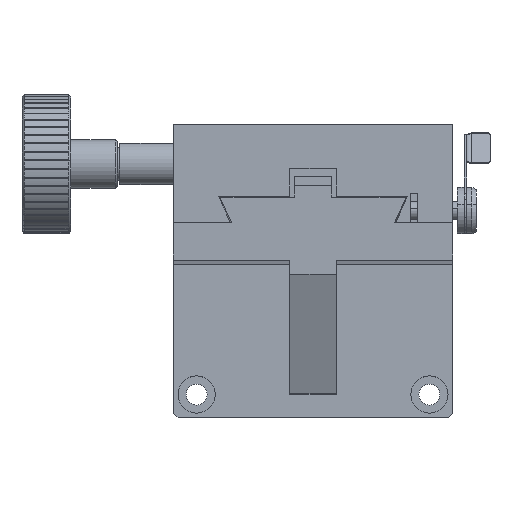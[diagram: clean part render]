
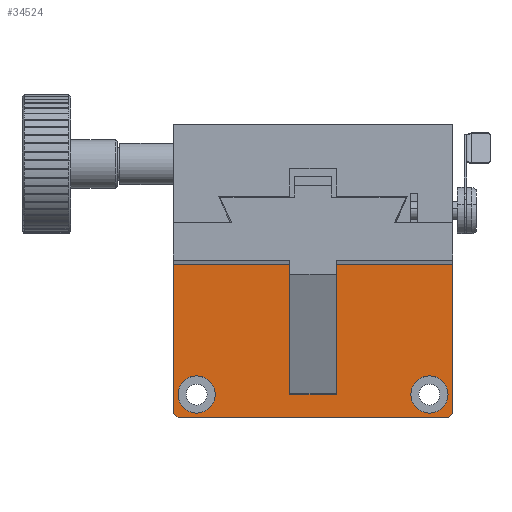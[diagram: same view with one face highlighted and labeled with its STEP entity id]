
A CAD part, top view. The second image highlights one B-rep face of the part: STEP entity #34524.
In plain terms, the highlighted planar face has unit normal (0, 0, 1).
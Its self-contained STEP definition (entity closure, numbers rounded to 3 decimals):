
#58 = VECTOR ( 'NONE', #4758, 1000. ) ;
#392 = CARTESIAN_POINT ( 'NONE',  ( 21., -28., 0. ) ) ;
#506 = DIRECTION ( 'NONE',  ( 0., 0., 1. ) ) ;
#528 = CIRCLE ( 'NONE', #10236, 4. ) ;
#837 = ORIENTED_EDGE ( 'NONE', *, *, #28467, .T. ) ;
#862 = CIRCLE ( 'NONE', #20297, 4. ) ;
#1023 = ORIENTED_EDGE ( 'NONE', *, *, #34290, .T. ) ;
#1090 = CARTESIAN_POINT ( 'NONE',  ( -29., -28., 0. ) ) ;
#1639 = ORIENTED_EDGE ( 'NONE', *, *, #1946, .T. ) ;
#1731 = LINE ( 'NONE', #20712, #58 ) ;
#1849 = LINE ( 'NONE', #4249, #26868 ) ;
#1946 = EDGE_CURVE ( 'NONE', #11115, #17996, #20244, .T. ) ;
#2128 = VECTOR ( 'NONE', #22966, 1000. ) ;
#2556 = LINE ( 'NONE', #25134, #21779 ) ;
#2579 = EDGE_LOOP ( 'NONE', ( #18235, #14479 ) ) ;
#2648 = VERTEX_POINT ( 'NONE', #5251 ) ;
#2653 = ORIENTED_EDGE ( 'NONE', *, *, #10700, .T. ) ;
#3233 = CARTESIAN_POINT ( 'NONE',  ( 29., -28., 0. ) ) ;
#4249 = CARTESIAN_POINT ( 'NONE',  ( -30., -32., 0. ) ) ;
#4635 = DIRECTION ( 'NONE',  ( 0., 1., 0. ) ) ;
#4758 = DIRECTION ( 'NONE',  ( 0.707, 0.707, 0. ) ) ;
#4779 = EDGE_CURVE ( 'NONE', #8568, #20676, #862, .T. ) ;
#4848 = CARTESIAN_POINT ( 'NONE',  ( 25., -28., 0. ) ) ;
#5251 = CARTESIAN_POINT ( 'NONE',  ( -30., -32., 0. ) ) ;
#6310 = DIRECTION ( 'NONE',  ( 0., 0., -1. ) ) ;
#7027 = ORIENTED_EDGE ( 'NONE', *, *, #8184, .T. ) ;
#7050 = DIRECTION ( 'NONE',  ( 0., 0., -1. ) ) ;
#7292 = AXIS2_PLACEMENT_3D ( 'NONE', #4848, #7771, #26494 ) ;
#7771 = DIRECTION ( 'NONE',  ( 0., 0., -1. ) ) ;
#8148 = AXIS2_PLACEMENT_3D ( 'NONE', #32754, #506, #19504 ) ;
#8184 = EDGE_CURVE ( 'NONE', #25402, #15542, #8849, .T. ) ;
#8568 = VERTEX_POINT ( 'NONE', #1090 ) ;
#8673 = CARTESIAN_POINT ( 'NONE',  ( 30., -32., 0. ) ) ;
#8849 = LINE ( 'NONE', #23191, #2128 ) ;
#9775 = DIRECTION ( 'NONE',  ( 0.707, -0.707, 0. ) ) ;
#9804 = DIRECTION ( 'NONE',  ( -1., 0., 0. ) ) ;
#9901 = LINE ( 'NONE', #24553, #11608 ) ;
#10236 = AXIS2_PLACEMENT_3D ( 'NONE', #15081, #33690, #17768 ) ;
#10418 = LINE ( 'NONE', #30810, #16646 ) ;
#10430 = VERTEX_POINT ( 'NONE', #19068 ) ;
#10444 = AXIS2_PLACEMENT_3D ( 'NONE', #11798, #6310, #32584 ) ;
#10700 = EDGE_CURVE ( 'NONE', #23411, #33060, #31910, .T. ) ;
#11115 = VERTEX_POINT ( 'NONE', #392 ) ;
#11317 = VERTEX_POINT ( 'NONE', #27945 ) ;
#11608 = VECTOR ( 'NONE', #21642, 1000. ) ;
#11798 = CARTESIAN_POINT ( 'NONE',  ( 25., -28., 0. ) ) ;
#12277 = EDGE_CURVE ( 'NONE', #12898, #2648, #2556, .T. ) ;
#12557 = DIRECTION ( 'NONE',  ( 1., 0., 0. ) ) ;
#12898 = VERTEX_POINT ( 'NONE', #23440 ) ;
#13168 = VECTOR ( 'NONE', #21501, 1000. ) ;
#13600 = VECTOR ( 'NONE', #9804, 1000. ) ;
#13793 = VERTEX_POINT ( 'NONE', #8673 ) ;
#14000 = EDGE_CURVE ( 'NONE', #10430, #33060, #10418, .T. ) ;
#14479 = ORIENTED_EDGE ( 'NONE', *, *, #4779, .T. ) ;
#15081 = CARTESIAN_POINT ( 'NONE',  ( -25., -28., 0. ) ) ;
#15294 = CARTESIAN_POINT ( 'NONE',  ( -25., -28., 0. ) ) ;
#15542 = VERTEX_POINT ( 'NONE', #25837 ) ;
#16124 = CARTESIAN_POINT ( 'NONE',  ( 5., 0., 0. ) ) ;
#16198 = VERTEX_POINT ( 'NONE', #17102 ) ;
#16500 = LINE ( 'NONE', #27057, #13168 ) ;
#16646 = VECTOR ( 'NONE', #4635, 1000. ) ;
#17102 = CARTESIAN_POINT ( 'NONE',  ( -5., -28., 0. ) ) ;
#17768 = DIRECTION ( 'NONE',  ( 1., 0., 0. ) ) ;
#17996 = VERTEX_POINT ( 'NONE', #3233 ) ;
#18235 = ORIENTED_EDGE ( 'NONE', *, *, #29540, .T. ) ;
#19052 = ORIENTED_EDGE ( 'NONE', *, *, #24027, .T. ) ;
#19068 = CARTESIAN_POINT ( 'NONE',  ( 5., -28., 0. ) ) ;
#19294 = ORIENTED_EDGE ( 'NONE', *, *, #30511, .T. ) ;
#19504 = DIRECTION ( 'NONE',  ( 1., 0., 0. ) ) ;
#20137 = CARTESIAN_POINT ( 'NONE',  ( 30., 0., 0. ) ) ;
#20219 = CARTESIAN_POINT ( 'NONE',  ( 0., -28., 0. ) ) ;
#20244 = CIRCLE ( 'NONE', #7292, 4. ) ;
#20260 = CIRCLE ( 'NONE', #10444, 4. ) ;
#20297 = AXIS2_PLACEMENT_3D ( 'NONE', #15294, #7050, #12557 ) ;
#20548 = VECTOR ( 'NONE', #30707, 1000. ) ;
#20676 = VERTEX_POINT ( 'NONE', #29936 ) ;
#20712 = CARTESIAN_POINT ( 'NONE',  ( 29., -33., 0. ) ) ;
#21501 = DIRECTION ( 'NONE',  ( 0., 1., 0. ) ) ;
#21642 = DIRECTION ( 'NONE',  ( -1., 0., 0. ) ) ;
#21779 = VECTOR ( 'NONE', #27659, 1000. ) ;
#21858 = ORIENTED_EDGE ( 'NONE', *, *, #12277, .T. ) ;
#22523 = EDGE_CURVE ( 'NONE', #11317, #12898, #9901, .T. ) ;
#22966 = DIRECTION ( 'NONE',  ( 1., 0., 0. ) ) ;
#23119 = CARTESIAN_POINT ( 'NONE',  ( -30., 0., 0. ) ) ;
#23191 = CARTESIAN_POINT ( 'NONE',  ( 0., -33., 0. ) ) ;
#23315 = EDGE_CURVE ( 'NONE', #16198, #11317, #16500, .T. ) ;
#23411 = VERTEX_POINT ( 'NONE', #24865 ) ;
#23440 = CARTESIAN_POINT ( 'NONE',  ( -30., 0., 0. ) ) ;
#24027 = EDGE_CURVE ( 'NONE', #13793, #23411, #27596, .T. ) ;
#24553 = CARTESIAN_POINT ( 'NONE',  ( 0., 0., 0. ) ) ;
#24839 = ORIENTED_EDGE ( 'NONE', *, *, #23315, .T. ) ;
#24865 = CARTESIAN_POINT ( 'NONE',  ( 30., 0., 0. ) ) ;
#25134 = CARTESIAN_POINT ( 'NONE',  ( -30., 0., 0. ) ) ;
#25214 = FACE_BOUND ( 'NONE', #2579, .T. ) ;
#25402 = VERTEX_POINT ( 'NONE', #34280 ) ;
#25837 = CARTESIAN_POINT ( 'NONE',  ( 29., -33., 0. ) ) ;
#26432 = FACE_OUTER_BOUND ( 'NONE', #27404, .T. ) ;
#26494 = DIRECTION ( 'NONE',  ( 1., 0., 0. ) ) ;
#26868 = VECTOR ( 'NONE', #9775, 1000. ) ;
#27057 = CARTESIAN_POINT ( 'NONE',  ( -5., 0., 0. ) ) ;
#27404 = EDGE_LOOP ( 'NONE', ( #24839, #30347, #21858, #28535, #7027, #19294, #19052, #2653, #32029, #1023 ) ) ;
#27596 = LINE ( 'NONE', #20137, #20548 ) ;
#27659 = DIRECTION ( 'NONE',  ( 0., -1., 0. ) ) ;
#27945 = CARTESIAN_POINT ( 'NONE',  ( -5., 0., 0. ) ) ;
#28467 = EDGE_CURVE ( 'NONE', #17996, #11115, #20260, .T. ) ;
#28535 = ORIENTED_EDGE ( 'NONE', *, *, #29028, .T. ) ;
#28910 = LINE ( 'NONE', #20219, #13600 ) ;
#29028 = EDGE_CURVE ( 'NONE', #2648, #25402, #1849, .T. ) ;
#29540 = EDGE_CURVE ( 'NONE', #20676, #8568, #528, .T. ) ;
#29786 = VECTOR ( 'NONE', #33801, 1000. ) ;
#29936 = CARTESIAN_POINT ( 'NONE',  ( -21., -28., 0. ) ) ;
#29949 = PLANE ( 'NONE',  #8148 ) ;
#30347 = ORIENTED_EDGE ( 'NONE', *, *, #22523, .T. ) ;
#30511 = EDGE_CURVE ( 'NONE', #15542, #13793, #1731, .T. ) ;
#30707 = DIRECTION ( 'NONE',  ( 0., 1., 0. ) ) ;
#30810 = CARTESIAN_POINT ( 'NONE',  ( 5., 0., 0. ) ) ;
#31910 = LINE ( 'NONE', #23119, #29786 ) ;
#32029 = ORIENTED_EDGE ( 'NONE', *, *, #14000, .F. ) ;
#32282 = FACE_BOUND ( 'NONE', #34255, .T. ) ;
#32584 = DIRECTION ( 'NONE',  ( 1., 0., 0. ) ) ;
#32754 = CARTESIAN_POINT ( 'NONE',  ( 0., 0., 0. ) ) ;
#33060 = VERTEX_POINT ( 'NONE', #16124 ) ;
#33690 = DIRECTION ( 'NONE',  ( 0., 0., -1. ) ) ;
#33801 = DIRECTION ( 'NONE',  ( -1., 0., 0. ) ) ;
#34255 = EDGE_LOOP ( 'NONE', ( #837, #1639 ) ) ;
#34280 = CARTESIAN_POINT ( 'NONE',  ( -29., -33., 0. ) ) ;
#34290 = EDGE_CURVE ( 'NONE', #10430, #16198, #28910, .T. ) ;
#34524 = ADVANCED_FACE ( 'NONE', ( #26432, #32282, #25214 ), #29949, .T. ) ;
